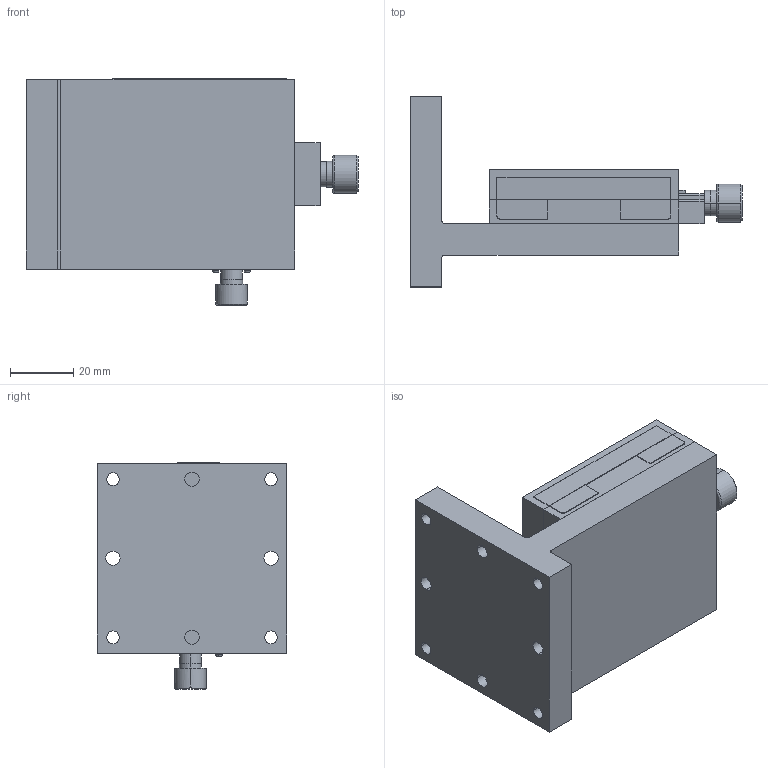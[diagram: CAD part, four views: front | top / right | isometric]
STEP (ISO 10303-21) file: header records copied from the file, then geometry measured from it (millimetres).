
FILE_DESCRIPTION (( 'STEP AP203' ), '1' );
FILE_NAME ('MC4A-60.STEP', '2008-07-19T07:20:23', ( 'user' ), ( '' ), 'SwSTEP 2.0', 'SolidWorks 2007', '' );
FILE_SCHEMA (( 'CONFIG_CONTROL_DESIGN' ));
Length unit declared in the file: millimetre
Products named in the file (1): MC4A-60
Bounding box: 105 x 60 x 71.75 mm (x, y, z)
Volume: 141863.3 mm3; surface area: 45893.6 mm2
Topology: 13 solids, 13 shells, 650 faces, 1687 edges, 1105 vertices
Faces by surface type: plane 368, cylinder 158, bspline 90, cone 28, torus 6
Entity records: 24835 total; most frequent: CARTESIAN_POINT 9229, ORIENTED_EDGE 3334, DIRECTION 2928, EDGE_CURVE 1667, VERTEX_POINT 1105, VECTOR 1104, LINE 1104, AXIS2_PLACEMENT_3D 912
